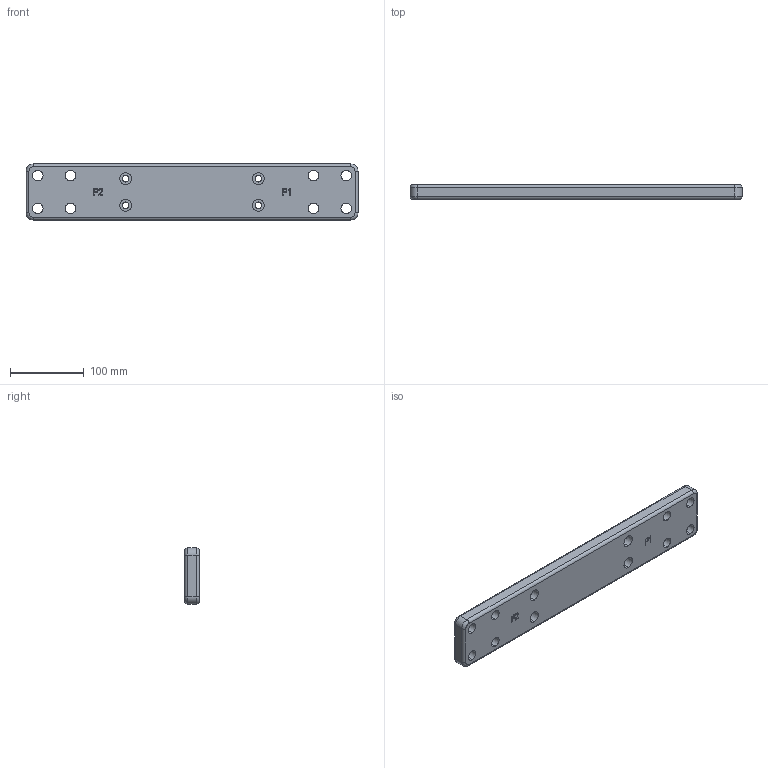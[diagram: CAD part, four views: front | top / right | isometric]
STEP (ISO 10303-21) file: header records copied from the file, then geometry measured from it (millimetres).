
FILE_DESCRIPTION (( 'STEP AP214' ), '1' );
FILE_NAME ('眣楱-3.23.00.00.002 嵙縺.STEP', '2020-12-22T18:54:23', ( '' ), ( '' ), 'SwSTEP 2.0', 'SolidWorks 2018', '' );
FILE_SCHEMA (( 'AUTOMOTIVE_DESIGN' ));
Length unit declared in the file: millimetre
Products named in the file (1): 眣楱-3.23.00.00.002 嵙縺
Bounding box: 450 x 20 x 76.2 mm (x, y, z)
Volume: 639502.6 mm3; surface area: 93207.8 mm2
Topology: 1 solids, 1 shells, 113 faces, 287 edges, 186 vertices
Faces by surface type: cylinder 44, plane 41, bspline 20, torus 8
Entity records: 5182 total; most frequent: CARTESIAN_POINT 1879, ORIENTED_EDGE 574, DIRECTION 531, EDGE_CURVE 287, AXIS2_PLACEMENT_3D 190, VERTEX_POINT 186, VECTOR 151, LINE 151
